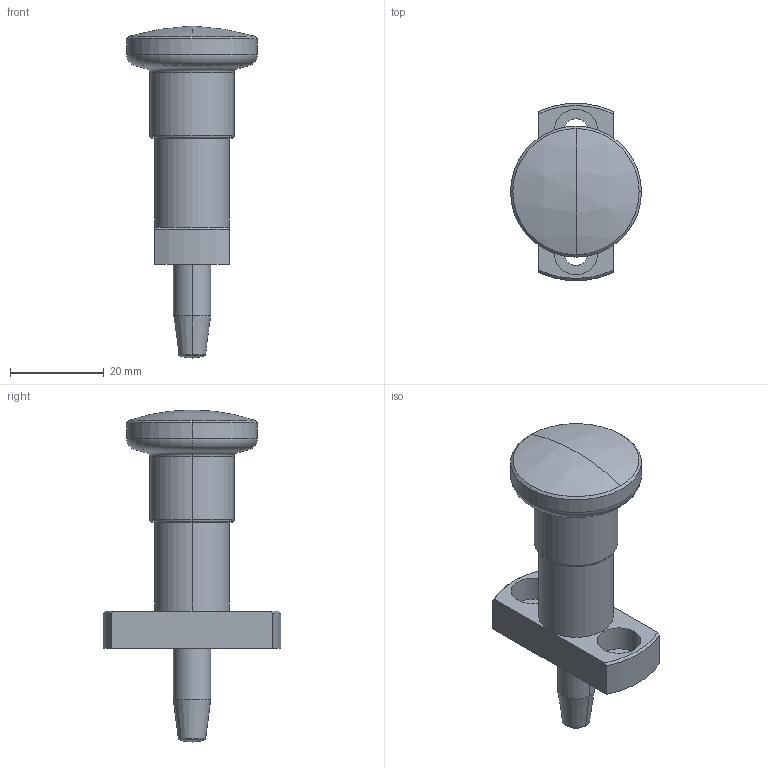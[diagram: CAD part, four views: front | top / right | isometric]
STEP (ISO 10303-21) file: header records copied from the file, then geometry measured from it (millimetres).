
FILE_DESCRIPTION (( 'STEP AP214' ), '1' );
FILE_NAME ('817.5-8-20-B.step', '2022-08-31T12:50:37', ( '' ), ( '' ), 'SwSTEP 2.0', 'SolidWorks 2022', '' );
FILE_SCHEMA (( 'AUTOMOTIVE_DESIGN' ));
Length unit declared in the file: millimetre
Products named in the file (3): WB817.5_Bolzen^817.5_4.1-08-20; 817.5-8-20-B; WB817.5_Führung^817.5_1.1-08-10-B
Assembly tree (2 placements, depth 2):
  817.5-8-20-B
    WB817.5_Führung^817.5_1.1-08-10-B
    WB817.5_Bolzen^817.5_4.1-08-20
Bounding box: 28 x 37.86 x 71 mm (x, y, z)
Volume: 15422.1 mm3; surface area: 9020.1 mm2
Topology: 2 solids, 2 shells, 78 faces, 178 edges, 112 vertices
Faces by surface type: cylinder 36, plane 20, cone 10, torus 8, sphere 4
Entity records: 2404 total; most frequent: CARTESIAN_POINT 477, DIRECTION 420, ORIENTED_EDGE 356, AXIS2_PLACEMENT_3D 179, EDGE_CURVE 178, VERTEX_POINT 112, CIRCLE 96, EDGE_LOOP 92
